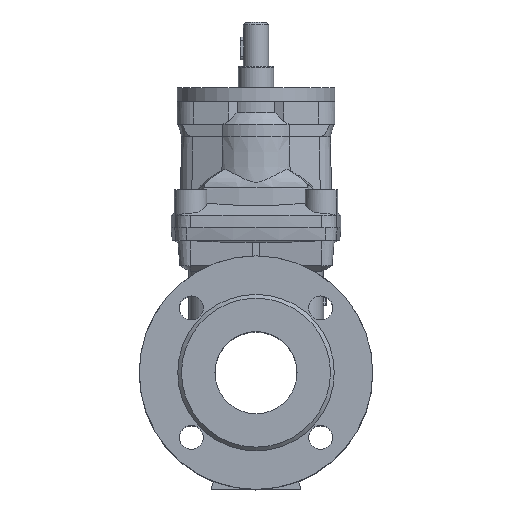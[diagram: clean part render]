
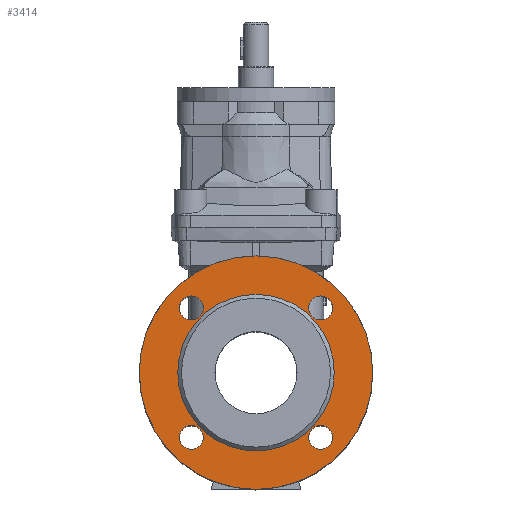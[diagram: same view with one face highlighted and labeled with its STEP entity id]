
A CAD part, top view. The second image highlights one B-rep face of the part: STEP entity #3414.
In plain terms, the highlighted planar face has unit normal (0, 0, 1).
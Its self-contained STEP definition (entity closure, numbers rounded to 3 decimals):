
#186 = CIRCLE ( 'NONE', #4376, 9.5 ) ;
#201 = CIRCLE ( 'NONE', #4379, 9.5 ) ;
#207 = CIRCLE ( 'NONE', #4388, 9.5 ) ;
#209 = CIRCLE ( 'NONE', #4383, 62. ) ;
#210 = CIRCLE ( 'NONE', #4384, 92.5 ) ;
#231 = CIRCLE ( 'NONE', #4398, 9.5 ) ;
#561 = DIRECTION ( 'NONE',  ( 0., 0., 1. ) ) ;
#568 = PLANE ( 'NONE',  #3785 ) ;
#569 = CARTESIAN_POINT ( 'NONE',  ( 0., 92.5, 132. ) ) ;
#571 = DIRECTION ( 'NONE',  ( -1., 0., 0. ) ) ;
#1013 = VERTEX_POINT ( 'NONE', #2949 ) ;
#1016 = VERTEX_POINT ( 'NONE', #2952 ) ;
#1020 = VERTEX_POINT ( 'NONE', #2956 ) ;
#1021 = VERTEX_POINT ( 'NONE', #2957 ) ;
#1024 = VERTEX_POINT ( 'NONE', #2960 ) ;
#1030 = VERTEX_POINT ( 'NONE', #2966 ) ;
#1266 = FACE_BOUND ( 'NONE', #6733, .T. ) ;
#1267 = FACE_BOUND ( 'NONE', #5888, .T. ) ;
#1268 = FACE_BOUND ( 'NONE', #6738, .T. ) ;
#1269 = FACE_OUTER_BOUND ( 'NONE', #6736, .T. ) ;
#1270 = FACE_BOUND ( 'NONE', #6729, .T. ) ;
#1271 = FACE_BOUND ( 'NONE', #6734, .T. ) ;
#2430 = ORIENTED_EDGE ( 'NONE', *, *, #6653, .F. ) ;
#2434 = ORIENTED_EDGE ( 'NONE', *, *, #6662, .T. ) ;
#2449 = ORIENTED_EDGE ( 'NONE', *, *, #6654, .T. ) ;
#2450 = ORIENTED_EDGE ( 'NONE', *, *, #6679, .F. ) ;
#2459 = ORIENTED_EDGE ( 'NONE', *, *, #6647, .T. ) ;
#2460 = ORIENTED_EDGE ( 'NONE', *, *, #6640, .F. ) ;
#2716 = CARTESIAN_POINT ( 'NONE',  ( -51.265, 51.265, 132. ) ) ;
#2717 = DIRECTION ( 'NONE',  ( 0., 0., 1. ) ) ;
#2718 = DIRECTION ( 'NONE',  ( -1., 0., 0. ) ) ;
#2733 = CARTESIAN_POINT ( 'NONE',  ( 51.265, -51.265, 132. ) ) ;
#2734 = DIRECTION ( 'NONE',  ( 0., 0., -1. ) ) ;
#2735 = DIRECTION ( 'NONE',  ( 1., 0., 0. ) ) ;
#2749 = CARTESIAN_POINT ( 'NONE',  ( 0., 0., 132. ) ) ;
#2750 = DIRECTION ( 'NONE',  ( 0., 0., 1. ) ) ;
#2751 = DIRECTION ( 'NONE',  ( 1., 0., 0. ) ) ;
#2752 = CARTESIAN_POINT ( 'NONE',  ( 0., 0., 132. ) ) ;
#2753 = DIRECTION ( 'NONE',  ( 0., 0., 1. ) ) ;
#2754 = DIRECTION ( 'NONE',  ( 1., 0., 0. ) ) ;
#2772 = CARTESIAN_POINT ( 'NONE',  ( 51.265, 51.265, 132. ) ) ;
#2773 = DIRECTION ( 'NONE',  ( 0., 0., -1. ) ) ;
#2774 = DIRECTION ( 'NONE',  ( 1., 0., 0. ) ) ;
#2816 = CARTESIAN_POINT ( 'NONE',  ( -51.265, -51.265, 132. ) ) ;
#2817 = DIRECTION ( 'NONE',  ( 0., 0., 1. ) ) ;
#2818 = DIRECTION ( 'NONE',  ( -1., 0., 0. ) ) ;
#2949 = CARTESIAN_POINT ( 'NONE',  ( -60.765, 51.265, 132. ) ) ;
#2952 = CARTESIAN_POINT ( 'NONE',  ( 60.765, -51.265, 132. ) ) ;
#2956 = CARTESIAN_POINT ( 'NONE',  ( 62., 0., 132. ) ) ;
#2957 = CARTESIAN_POINT ( 'NONE',  ( 92.5, 0., 132. ) ) ;
#2960 = CARTESIAN_POINT ( 'NONE',  ( 60.765, 51.265, 132. ) ) ;
#2966 = CARTESIAN_POINT ( 'NONE',  ( -60.765, -51.265, 132. ) ) ;
#3414 = ADVANCED_FACE ( 'NONE', ( #1266, #1270, #1267, #1269, #1268, #1271 ), #568, .T. ) ;
#3785 = AXIS2_PLACEMENT_3D ( 'NONE', #569, #561, #571 ) ;
#4376 = AXIS2_PLACEMENT_3D ( 'NONE', #2716, #2717, #2718 ) ;
#4379 = AXIS2_PLACEMENT_3D ( 'NONE', #2733, #2734, #2735 ) ;
#4383 = AXIS2_PLACEMENT_3D ( 'NONE', #2749, #2750, #2751 ) ;
#4384 = AXIS2_PLACEMENT_3D ( 'NONE', #2752, #2753, #2754 ) ;
#4388 = AXIS2_PLACEMENT_3D ( 'NONE', #2772, #2773, #2774 ) ;
#4398 = AXIS2_PLACEMENT_3D ( 'NONE', #2816, #2817, #2818 ) ;
#5888 = EDGE_LOOP ( 'NONE', ( #2430 ) ) ;
#6640 = EDGE_CURVE ( 'NONE', #1013, #1013, #186, .T. ) ;
#6647 = EDGE_CURVE ( 'NONE', #1016, #1016, #201, .T. ) ;
#6653 = EDGE_CURVE ( 'NONE', #1020, #1020, #209, .T. ) ;
#6654 = EDGE_CURVE ( 'NONE', #1021, #1021, #210, .T. ) ;
#6662 = EDGE_CURVE ( 'NONE', #1024, #1024, #207, .T. ) ;
#6679 = EDGE_CURVE ( 'NONE', #1030, #1030, #231, .T. ) ;
#6729 = EDGE_LOOP ( 'NONE', ( #2460 ) ) ;
#6733 = EDGE_LOOP ( 'NONE', ( #2434 ) ) ;
#6734 = EDGE_LOOP ( 'NONE', ( #2459 ) ) ;
#6736 = EDGE_LOOP ( 'NONE', ( #2449 ) ) ;
#6738 = EDGE_LOOP ( 'NONE', ( #2450 ) ) ;
